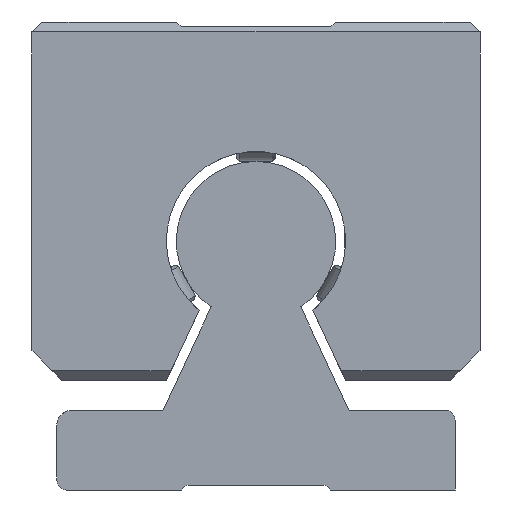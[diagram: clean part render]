
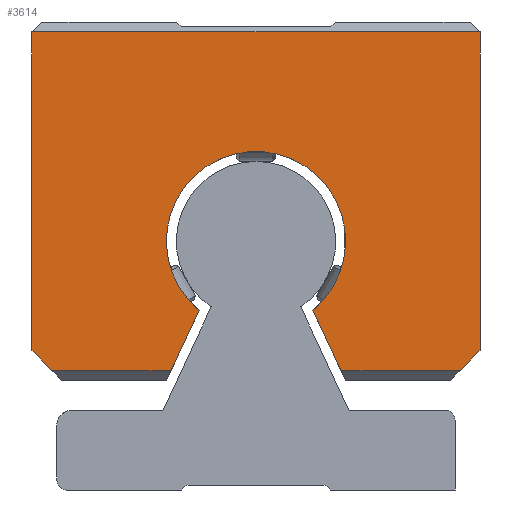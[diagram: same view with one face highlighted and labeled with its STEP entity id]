
A CAD part, left-side view. The second image highlights one B-rep face of the part: STEP entity #3614.
In plain terms, the highlighted planar face has unit normal (-1, 0, 0).
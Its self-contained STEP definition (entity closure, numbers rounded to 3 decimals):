
#3090=CARTESIAN_POINT('',(136.85,-22.5,46.));
#3091=VERTEX_POINT('',#3090);
#3129=CARTESIAN_POINT('',(136.85,-22.5,14.));
#3130=VERTEX_POINT('',#3129);
#3131=CARTESIAN_POINT('',(136.85,-22.5,46.));
#3132=DIRECTION('',(0.0,0.0,-1.0));
#3133=VECTOR('',#3132,32.0);
#3134=LINE('',#3131,#3133);
#3135=EDGE_CURVE('',#3091,#3130,#3134,.T.);
#3210=CARTESIAN_POINT('',(136.85,22.5,46.));
#3211=VERTEX_POINT('',#3210);
#3218=CARTESIAN_POINT('',(136.85,22.5,46.));
#3219=DIRECTION('',(0.0,-1.0,0.0));
#3220=VECTOR('',#3219,45.0);
#3221=LINE('',#3218,#3220);
#3222=EDGE_CURVE('',#3211,#3091,#3221,.T.);
#3232=CARTESIAN_POINT('',(136.85,20.5,12.));
#3233=VERTEX_POINT('',#3232);
#3250=CARTESIAN_POINT('',(136.85,8.534,12.));
#3251=VERTEX_POINT('',#3250);
#3258=CARTESIAN_POINT('',(136.85,8.534,12.));
#3259=DIRECTION('',(0.0,1.0,0.0));
#3260=VECTOR('',#3259,11.966);
#3261=LINE('',#3258,#3260);
#3262=EDGE_CURVE('',#3251,#3233,#3261,.T.);
#3321=CARTESIAN_POINT('',(136.85,22.5,14.));
#3322=VERTEX_POINT('',#3321);
#3323=CARTESIAN_POINT('',(136.85,20.5,12.));
#3324=DIRECTION('',(0.0,0.707,0.707));
#3325=VECTOR('',#3324,2.828);
#3326=LINE('',#3323,#3325);
#3327=EDGE_CURVE('',#3233,#3322,#3326,.T.);
#3530=CARTESIAN_POINT('',(136.85,-20.5,12.));
#3531=VERTEX_POINT('',#3530);
#3532=CARTESIAN_POINT('',(136.85,-22.5,14.));
#3533=DIRECTION('',(0.0,0.707,-0.707));
#3534=VECTOR('',#3533,2.828);
#3535=LINE('',#3532,#3534);
#3536=EDGE_CURVE('',#3130,#3531,#3535,.T.);
#3554=CARTESIAN_POINT('',(136.85,-8.534,12.));
#3555=VERTEX_POINT('',#3554);
#3556=CARTESIAN_POINT('',(136.85,-20.5,12.));
#3557=DIRECTION('',(0.0,1.0,0.0));
#3558=VECTOR('',#3557,11.966);
#3559=LINE('',#3556,#3558);
#3560=EDGE_CURVE('',#3531,#3555,#3559,.T.);
#3572=CARTESIAN_POINT('',(136.85,-15.25,46.75));
#3573=DIRECTION('',(1.0,0.0,0.0));
#3574=DIRECTION('',(0.0,0.0,-1.0));
#3575=AXIS2_PLACEMENT_3D('',#3572,#3573,#3574);
#3576=PLANE('',#3575);
#3577=ORIENTED_EDGE('',*,*,#3262,.F.);
#3578=CARTESIAN_POINT('',(136.85,5.714,18.047));
#3579=VERTEX_POINT('',#3578);
#3580=CARTESIAN_POINT('',(136.85,5.714,18.047));
#3581=DIRECTION('',(0.0,0.423,-0.906));
#3582=VECTOR('',#3581,6.672);
#3583=LINE('',#3580,#3582);
#3584=EDGE_CURVE('',#3579,#3251,#3583,.T.);
#3585=ORIENTED_EDGE('',*,*,#3584,.F.);
#3586=CARTESIAN_POINT('',(136.85,-5.714,18.047));
#3587=VERTEX_POINT('',#3586);
#3588=CARTESIAN_POINT('',(136.85,0.,25.));
#3589=DIRECTION('',(-1.0,0.0,0.0));
#3590=DIRECTION('',(0.0,-1.0,0.0));
#3591=AXIS2_PLACEMENT_3D('',#3588,#3589,#3590);
#3592=CIRCLE('',#3591,9.0);
#3593=EDGE_CURVE('',#3587,#3579,#3592,.T.);
#3594=ORIENTED_EDGE('',*,*,#3593,.F.);
#3595=CARTESIAN_POINT('',(136.85,-8.534,12.));
#3596=DIRECTION('',(0.0,0.423,0.906));
#3597=VECTOR('',#3596,6.672);
#3598=LINE('',#3595,#3597);
#3599=EDGE_CURVE('',#3555,#3587,#3598,.T.);
#3600=ORIENTED_EDGE('',*,*,#3599,.F.);
#3601=ORIENTED_EDGE('',*,*,#3560,.F.);
#3602=ORIENTED_EDGE('',*,*,#3536,.F.);
#3603=ORIENTED_EDGE('',*,*,#3135,.F.);
#3604=ORIENTED_EDGE('',*,*,#3222,.F.);
#3605=CARTESIAN_POINT('',(136.85,22.5,14.));
#3606=DIRECTION('',(0.0,0.0,1.0));
#3607=VECTOR('',#3606,32.0);
#3608=LINE('',#3605,#3607);
#3609=EDGE_CURVE('',#3322,#3211,#3608,.T.);
#3610=ORIENTED_EDGE('',*,*,#3609,.F.);
#3611=ORIENTED_EDGE('',*,*,#3327,.F.);
#3612=EDGE_LOOP('',(#3577,#3585,#3594,#3600,#3601,#3602,#3603,#3604,#3610,#3611));
#3613=FACE_OUTER_BOUND('',#3612,.T.);
#3614=ADVANCED_FACE('',(#3613),#3576,.F.);
